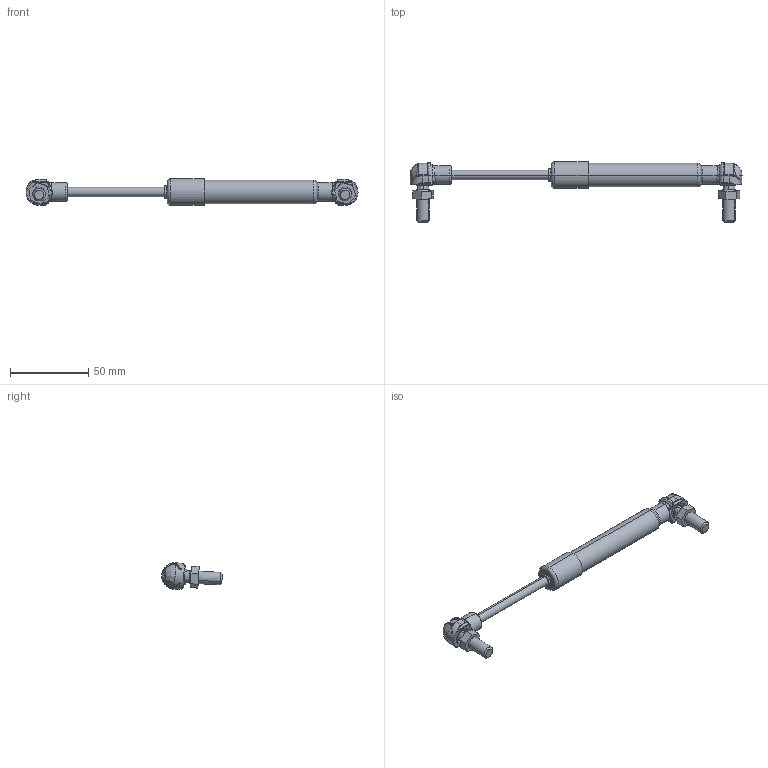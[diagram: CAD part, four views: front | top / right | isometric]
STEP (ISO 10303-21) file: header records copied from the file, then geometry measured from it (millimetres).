
FILE_DESCRIPTION (( 'STEP AP203' ), '1' );
FILE_NAME ('Gas Strut 195mm.STEP', '2025-04-03T09:39:52', ( '' ), ( '' ), 'SwSTEP 2.0', 'SolidWorks 2024', '' );
FILE_SCHEMA (( 'CONFIG_CONTROL_DESIGN' ));
Length unit declared in the file: millimetre
Products named in the file (4): 烟斗球套; Gas Strut 195mm; 15qitanhuang-shenzhan; QD16-M8-12
Assembly tree (5 placements, depth 2):
  Gas Strut 195mm
    15qitanhuang-shenzhan
    烟斗球套  x2
    QD16-M8-12  x2
Bounding box: 211.5 x 38.62 x 17 mm (x, y, z)
Volume: 29244.1 mm3; surface area: 13418.1 mm2
Topology: 7 solids, 7 shells, 352 faces, 962 edges, 620 vertices
Faces by surface type: cylinder 112, plane 108, bspline 82, cone 24, torus 22, sphere 4
Entity records: 7498 total; most frequent: CARTESIAN_POINT 2865, ORIENTED_EDGE 992, DIRECTION 731, EDGE_CURVE 496, VERTEX_POINT 324, AXIS2_PLACEMENT_3D 284, EDGE_LOOP 200, FACE_OUTER_BOUND 188
